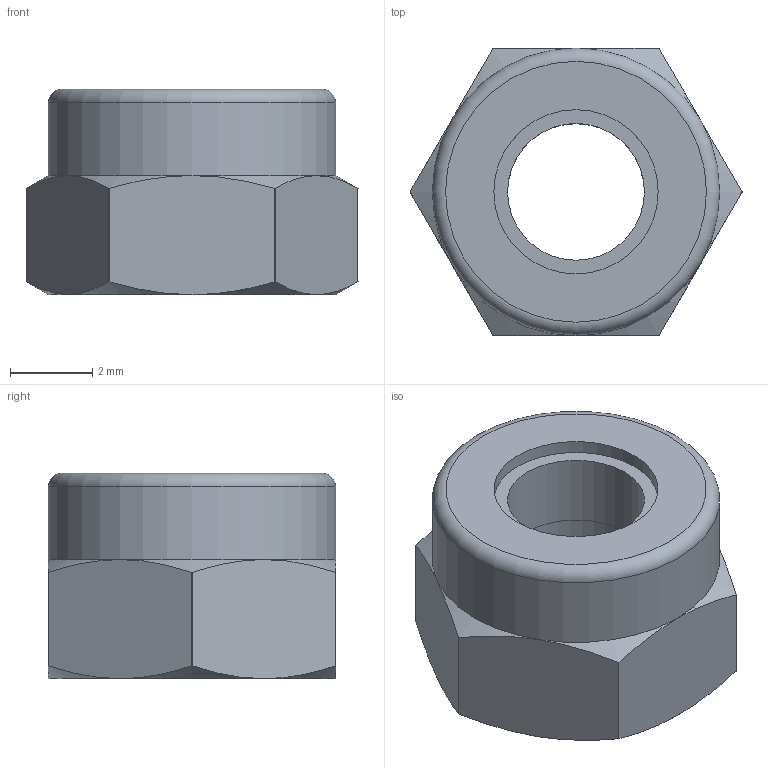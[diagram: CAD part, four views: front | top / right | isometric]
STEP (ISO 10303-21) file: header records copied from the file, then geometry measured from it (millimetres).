
FILE_DESCRIPTION(/* description */ (''),/* implementation_level */ '2;1');
FILE_NAME(/* name */ 'M4 Nyloc Nut - DIN 985 - A2 Stainless Steel.step',/* time_stamp */ '2024-06-27T11:43:09+03:00',/* author */ (''),/* organization */ (''),/* preprocessor_version */ 'ST-DEVELOPER v20',/* originating_system */ 'Autodesk Translation Framework v13.14.0.145',/* authorisation */ '');
FILE_SCHEMA (('AUTOMOTIVE_DESIGN { 1 0 10303 214 3 1 1 }'));
Length unit declared in the file: millimetre
Products named in the file (2): M4 Nyloc Nut - DIN 985 - A2 Stainless Steel; Hexagon Nut DIN 985 - M4 Stainless Steel A2 Plain v1
Assembly tree (1 placements, depth 2):
  M4 Nyloc Nut - DIN 985 - A2 Stainless Steel
    Hexagon Nut DIN 985 - M4 Stainless Steel A2 Plain v1
Bounding box: 8.09 x 7 x 5 mm (x, y, z)
Volume: 157.8 mm3; surface area: 385.1 mm2
Topology: 8 solids, 8 shells, 61 faces, 116 edges, 73 vertices
Faces by surface type: plane 24, cone 24, cylinder 12, torus 1
Full cylindrical faces by diameter (mm): 3.332 x2, 4 x1, 6.353 x2, 7 x1
Entity records: 1568 total; most frequent: CARTESIAN_POINT 301, DIRECTION 258, ORIENTED_EDGE 232, EDGE_CURVE 116, AXIS2_PLACEMENT_3D 102, VERTEX_POINT 73, EDGE_LOOP 67, FACE_OUTER_BOUND 61
